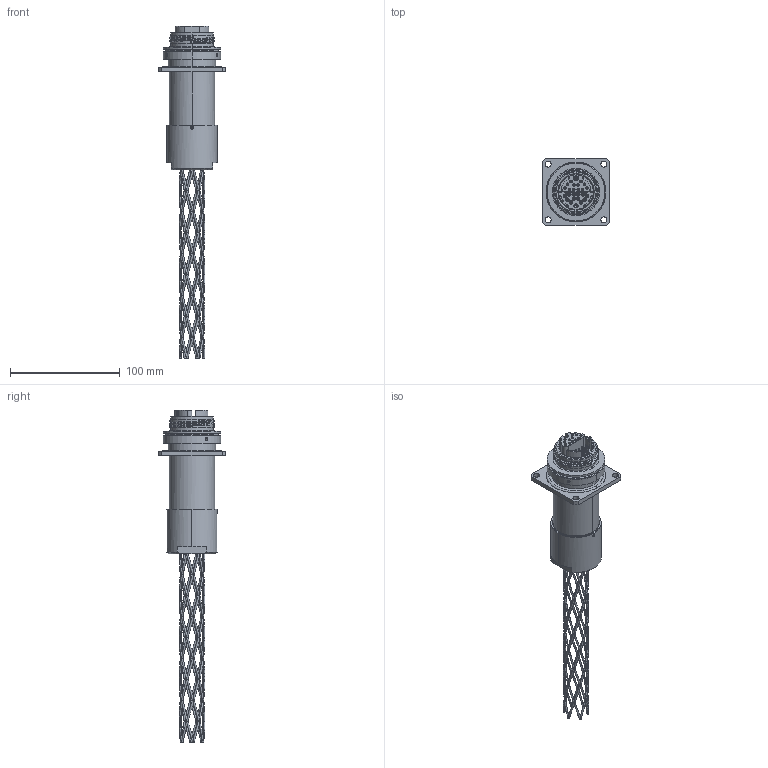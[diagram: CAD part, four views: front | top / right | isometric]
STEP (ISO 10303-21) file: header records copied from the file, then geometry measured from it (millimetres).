
FILE_DESCRIPTION (( 'STEP AP214' ), '1' );
FILE_NAME ('QFOCA3-G1-RIFX-24X-X-GX.STEP', '2025-08-05T21:18:41', ( '' ), ( '' ), 'SwSTEP 2.0', 'SolidWorks 2024', '' );
FILE_SCHEMA (( 'AUTOMOTIVE_DESIGN' ));
Products named in the file (1): QFOCA3-G1-RIFX-24X-X-GX
Bounding box: 60.2 x 60.2 x 301.94 mm (x, y, z)
Volume: 194405.7 mm3; surface area: 52060.7 mm2
Topology: 18 solids, 36 shells, 1497 faces, 3554 edges, 2076 vertices
Faces by surface type: cylinder 452, cone 333, plane 252, torus 234, bspline 226
Entity records: 148461 total; most frequent: CARTESIAN_POINT 115413, ORIENTED_EDGE 7104, DIRECTION 6899, EDGE_CURVE 3552, AXIS2_PLACEMENT_3D 2924, VERTEX_POINT 2076, CIRCLE 1652, EDGE_LOOP 1628
